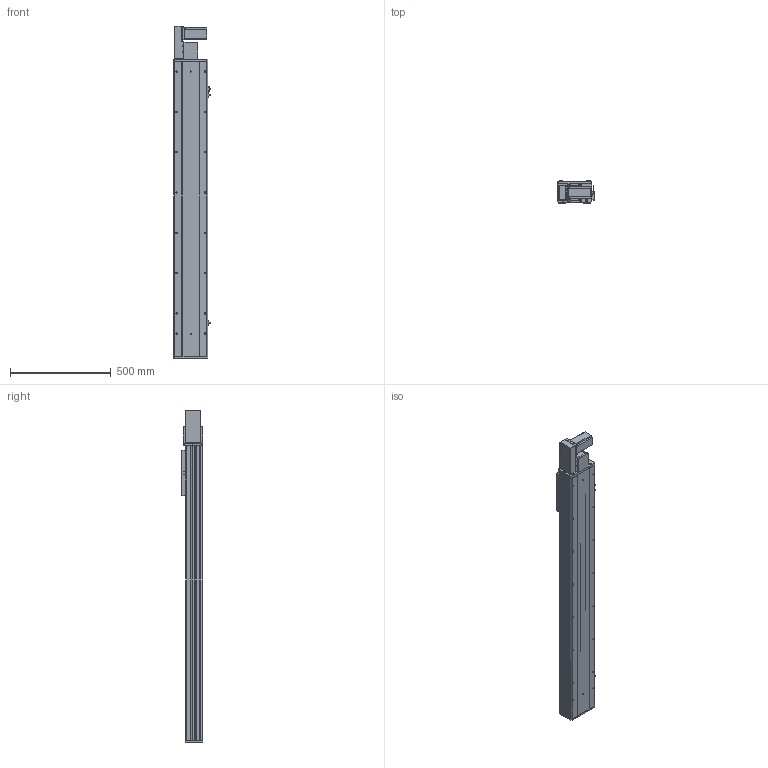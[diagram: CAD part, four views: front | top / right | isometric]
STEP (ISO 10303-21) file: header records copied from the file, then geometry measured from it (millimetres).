
FILE_DESCRIPTION (( 'STEP AP203' ), '1' );
FILE_NAME ('Y170CB-D105-S1150-BL-P400W.STEP', '2020-02-20T01:19:35', ( '微软用户' ), ( '微软中国' ), 'SwSTEP 2.0', 'SolidWorks 2017', '' );
FILE_SCHEMA (( 'CONFIG_CONTROL_DESIGN' ));
Length unit declared in the file: millimetre
Products named in the file (18): 70B喘謫眊----; 70CB-耜裔啣-; Y1埴倛裔; 70C--詩湍揤踡え-; B-源倛裔啣; Y170CB-D105-S1150-BL-P400W; 70CB--耜裔; 17B-耜蚾蟀諉啣----; 70C-雄赽釱-奻-; 0B-萇儂楊擘啣; 0C--雄赽釱俋欶-170; san松下电机400不带刹车----; 70CB-詩湍--; Y70俋欶BR----; Y100-135俋离換覜ん--; 70CB-掛极-; Y170CB-陔俋离換覜結え---; --70CB --喘謫眊楊擘啣-
Assembly tree (21 placements, depth 2):
  Y170CB-D105-S1150-BL-P400W
    B-源倛裔啣
    17B-耜蚾蟀諉啣----
    0B-萇儂楊擘啣
    san松下电机400不带刹车----
    Y70俋欶BR----
    70CB-掛极-
    --70CB --喘謫眊楊擘啣-
    70CB-耜裔啣-  x2
    70C--詩湍揤踡え-  x2
    70CB--耜裔
    70C-雄赽釱-奻-
    0C--雄赽釱俋欶-170
    70CB-詩湍--
    Y100-135俋离換覜ん--  x3
    Y170CB-陔俋离換覜結え---
    70B喘謫眊----
    Y1埴倛裔
Bounding box: 183.5 x 107 x 1647 mm (x, y, z)
Volume: 7127913.2 mm3; surface area: 2556332.8 mm2
Topology: 21 solids, 21 shells, 1015 faces, 2717 edges, 1802 vertices
Faces by surface type: cylinder 527, plane 464, cone 24
Entity records: 32320 total; most frequent: CARTESIAN_POINT 5916, DIRECTION 5254, ORIENTED_EDGE 4916, EDGE_CURVE 2458, AXIS2_PLACEMENT_3D 1924, VERTEX_POINT 1632, VECTOR 1406, LINE 1406
